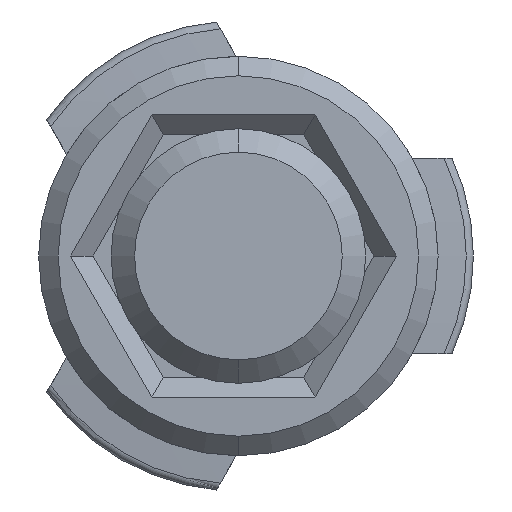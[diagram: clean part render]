
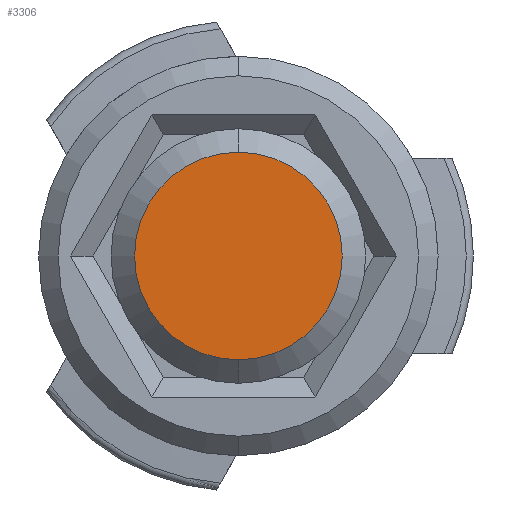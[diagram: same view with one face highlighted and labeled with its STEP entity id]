
A CAD part, left-side view. The second image highlights one B-rep face of the part: STEP entity #3306.
In plain terms, the highlighted planar face has unit normal (-1, 0, 0).
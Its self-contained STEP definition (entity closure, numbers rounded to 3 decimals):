
#67 = DIRECTION ( 'NONE',  ( 0., 0., 1. ) ) ;
#255 = CIRCLE ( 'NONE', #1749, 2.65 ) ;
#262 = AXIS2_PLACEMENT_3D ( 'NONE', #1634, #3629, #1923 ) ;
#802 = PLANE ( 'NONE',  #3153 ) ;
#981 = EDGE_CURVE ( 'NONE', #2769, #3687, #3431, .T. ) ;
#1355 = EDGE_CURVE ( 'NONE', #3687, #2769, #255, .T. ) ;
#1634 = CARTESIAN_POINT ( 'NONE',  ( -28., 0., 0. ) ) ;
#1669 = ORIENTED_EDGE ( 'NONE', *, *, #1355, .T. ) ;
#1749 = AXIS2_PLACEMENT_3D ( 'NONE', #3492, #1786, #67 ) ;
#1786 = DIRECTION ( 'NONE',  ( -1., 0., 0. ) ) ;
#1923 = DIRECTION ( 'NONE',  ( 0., 0., 1. ) ) ;
#1965 = DIRECTION ( 'NONE',  ( 0., 0., 1. ) ) ;
#2151 = CARTESIAN_POINT ( 'NONE',  ( -28., 0., -2.65 ) ) ;
#2401 = CARTESIAN_POINT ( 'NONE',  ( -28., 0., 2.65 ) ) ;
#2769 = VERTEX_POINT ( 'NONE', #2151 ) ;
#2866 = EDGE_LOOP ( 'NONE', ( #3376, #1669 ) ) ;
#2907 = FACE_OUTER_BOUND ( 'NONE', #2866, .T. ) ;
#3095 = CARTESIAN_POINT ( 'NONE',  ( -28., 0., 0. ) ) ;
#3153 = AXIS2_PLACEMENT_3D ( 'NONE', #3095, #3673, #1965 ) ;
#3306 = ADVANCED_FACE ( 'NONE', ( #2907 ), #802, .T. ) ;
#3376 = ORIENTED_EDGE ( 'NONE', *, *, #981, .T. ) ;
#3431 = CIRCLE ( 'NONE', #262, 2.65 ) ;
#3492 = CARTESIAN_POINT ( 'NONE',  ( -28., 0., 0. ) ) ;
#3629 = DIRECTION ( 'NONE',  ( -1., 0., 0. ) ) ;
#3673 = DIRECTION ( 'NONE',  ( -1., 0., 0. ) ) ;
#3687 = VERTEX_POINT ( 'NONE', #2401 ) ;
